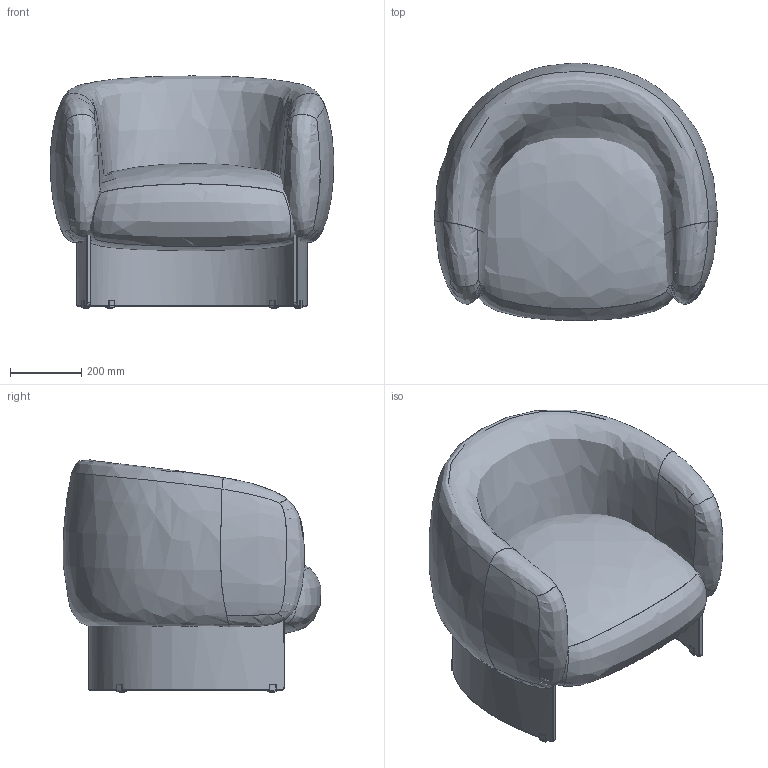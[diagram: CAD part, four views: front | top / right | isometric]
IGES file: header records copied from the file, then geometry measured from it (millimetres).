
Global section: file name: Z:\3D_LQ\2024-2025\poltroncina-Ceriani\x-web\3D_ONAIR.igs; native system: Rhinoceros ( Aug 11 2021 ); preprocessor: Trout Lake IGES 012 Aug 11 2021; date: 250404.154024; units: millimetre
Bounding box: 794.2 x 720.24 x 649.83 mm (x, y, z)
Surface area: 3130475.7 mm2 (no closed solid volume)
Topology: 0 solids, 0 shells, 264 faces, 1554 edges, 1554 vertices
Faces by surface type: bspline 264
